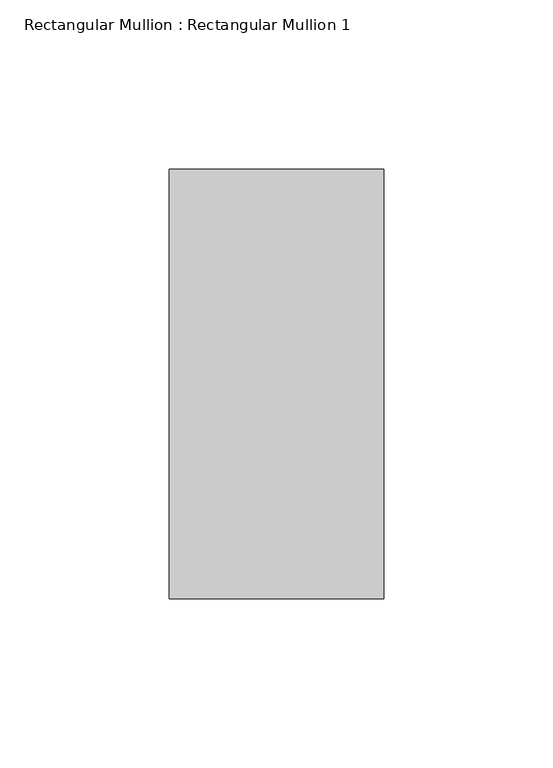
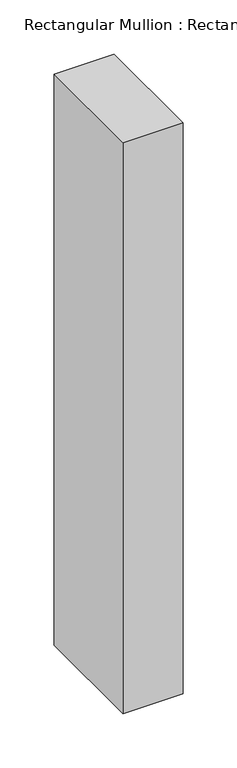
"""IFC4 building model written with IfcOpenShell, lengths in millimetres: member geometry, Rectangular Mullion : Rectangular Mullion 1."""

from ifc_helpers import new_model, si_unit, frame, origin, place, context, project, spatial, polyline, outline, extrude, source, transform, mapped, element, save


def rectangular_mullion_rectangular_mullion_1_51170729(model_context):
    return source(origin(), model_context, "Body", "SweptSolid", [
        extrude(outline(polyline([(31.75, 63.5), (31.75, -63.5), (-31.75, -63.5), (-31.75, 63.5), (31.75, 63.5)])), frame((0.0, 0.0, -641.35), z_axis=(0.0, 0.0, 1.0), x_axis=(1.0, 0.0, 0.0)), (0.0, 0.0, 1.0), 641.35),
    ])


if __name__ == "__main__":
    model = new_model("IFC4")
    model_context = context("Model", 3, world=origin())
    ifc_project = project(units=[si_unit("LENGTHUNIT", "METRE", prefix="MILLI")], contexts=[model_context])
    site = spatial("IfcSite", under=ifc_project)
    building = spatial("IfcBuilding", under=site)
    placement = place(None, origin())
    rectangular_mullion_rectangular_mullion_1_shape = rectangular_mullion_rectangular_mullion_1_51170729(model_context)
    element("IfcMember", 1, ObjectType="Rectangular Mullion : Rectangular Mullion 1", at=placement, inside=building, context=model_context, shape_type="MappedRepresentation", body=[
        mapped(rectangular_mullion_rectangular_mullion_1_shape, transform((0.0, 0.0, 0.0), x_axis=(1.0, 0.0, 0.0), y_axis=(0.0, 1.0, 0.0), z_axis=(0.0, 0.0, 1.0))),
    ])
    save(model, "model.ifc")
